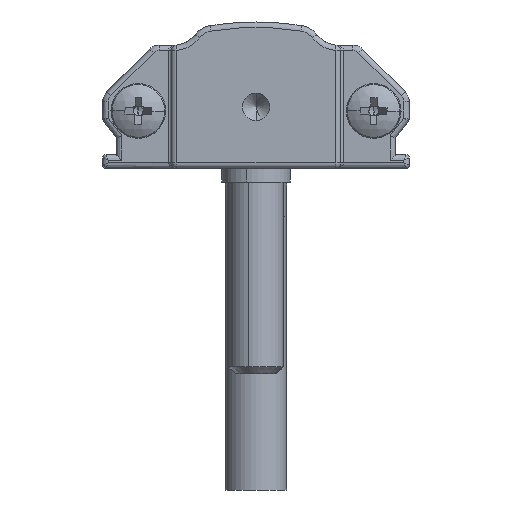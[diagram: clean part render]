
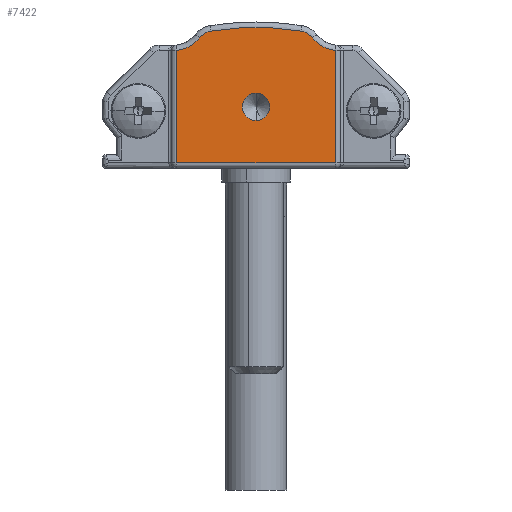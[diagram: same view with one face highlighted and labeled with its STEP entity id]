
A CAD part, front view. The second image highlights one B-rep face of the part: STEP entity #7422.
In plain terms, the highlighted planar face has unit normal (0, -1, 0).
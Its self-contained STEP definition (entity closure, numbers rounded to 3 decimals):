
#266 = EDGE_CURVE ( 'NONE', #24204, #14003, #29381, .T. ) ;
#2321 = CARTESIAN_POINT ( 'NONE',  ( 17., -15., 8.612 ) ) ;
#2668 = DIRECTION ( 'NONE',  ( 0., 0., -1. ) ) ;
#2794 = ORIENTED_EDGE ( 'NONE', *, *, #32054, .F. ) ;
#3646 = DIRECTION ( 'NONE',  ( 0., 0., -1. ) ) ;
#3812 = CARTESIAN_POINT ( 'NONE',  ( 8.1, -15., 8.75 ) ) ;
#3814 = ORIENTED_EDGE ( 'NONE', *, *, #266, .T. ) ;
#3871 = FACE_BOUND ( 'NONE', #22832, .T. ) ;
#4716 = DIRECTION ( 'NONE',  ( 0., -1., 0. ) ) ;
#4768 = CIRCLE ( 'NONE', #12171, 1.3 ) ;
#4970 = EDGE_CURVE ( 'NONE', #14003, #6780, #13871, .T. ) ;
#5076 = CARTESIAN_POINT ( 'NONE',  ( 5.4, -15., 0.4 ) ) ;
#5229 = CIRCLE ( 'NONE', #23631, 20.676 ) ;
#6353 = FACE_OUTER_BOUND ( 'NONE', #16106, .T. ) ;
#6614 = VERTEX_POINT ( 'NONE', #22272 ) ;
#6780 = VERTEX_POINT ( 'NONE', #29675 ) ;
#7024 = AXIS2_PLACEMENT_3D ( 'NONE', #32021, #9720, #16987 ) ;
#7422 = ADVANCED_FACE ( 'NONE', ( #6353, #3871 ), #26621, .T. ) ;
#7526 = CARTESIAN_POINT ( 'NONE',  ( 14.3, -15., 8.75 ) ) ;
#7828 = CARTESIAN_POINT ( 'NONE',  ( 15.332, -15., 9.541 ) ) ;
#8574 = CARTESIAN_POINT ( 'NONE',  ( 11.2, -15., 4.5 ) ) ;
#8598 = DIRECTION ( 'NONE',  ( 0., -1., 0. ) ) ;
#8658 = CARTESIAN_POINT ( 'NONE',  ( 22.15, -15., 3.606 ) ) ;
#8888 = VERTEX_POINT ( 'NONE', #15983 ) ;
#9268 = ORIENTED_EDGE ( 'NONE', *, *, #15489, .T. ) ;
#9720 = DIRECTION ( 'NONE',  ( 0., 1., 0. ) ) ;
#10282 = CIRCLE ( 'NONE', #13986, 1.3 ) ;
#10620 = CARTESIAN_POINT ( 'NONE',  ( 11.2, -15., -10.376 ) ) ;
#10702 = VERTEX_POINT ( 'NONE', #22607 ) ;
#10705 = EDGE_CURVE ( 'NONE', #6780, #30689, #25092, .T. ) ;
#11440 = DIRECTION ( 'NONE',  ( 0., 0., -1. ) ) ;
#11819 = VERTEX_POINT ( 'NONE', #31756 ) ;
#12098 = EDGE_CURVE ( 'NONE', #10702, #24204, #21231, .T. ) ;
#12171 = AXIS2_PLACEMENT_3D ( 'NONE', #7526, #4716, #30170 ) ;
#12427 = DIRECTION ( 'NONE',  ( 0., 0., 1. ) ) ;
#13658 = DIRECTION ( 'NONE',  ( 0., 0., -1. ) ) ;
#13871 = LINE ( 'NONE', #31858, #17646 ) ;
#13986 = AXIS2_PLACEMENT_3D ( 'NONE', #3812, #8598, #3646 ) ;
#14003 = VERTEX_POINT ( 'NONE', #5076 ) ;
#14253 = CARTESIAN_POINT ( 'NONE',  ( 11.2, -15., 4.5 ) ) ;
#14327 = VERTEX_POINT ( 'NONE', #7828 ) ;
#14521 = CIRCLE ( 'NONE', #26037, 1. ) ;
#14809 = ORIENTED_EDGE ( 'NONE', *, *, #17983, .T. ) ;
#15052 = ORIENTED_EDGE ( 'NONE', *, *, #15440, .T. ) ;
#15440 = EDGE_CURVE ( 'NONE', #23894, #10702, #10282, .T. ) ;
#15489 = EDGE_CURVE ( 'NONE', #30689, #14327, #17664, .T. ) ;
#15701 = DIRECTION ( 'NONE',  ( 0., -1., 0. ) ) ;
#15850 = VECTOR ( 'NONE', #12427, 1000. ) ;
#15983 = CARTESIAN_POINT ( 'NONE',  ( 11.2, -15., 5.5 ) ) ;
#16106 = EDGE_LOOP ( 'NONE', ( #30932, #9268, #19811, #14809, #15052, #20766, #3814, #26886 ) ) ;
#16649 = DIRECTION ( 'NONE',  ( 1., 0., 0. ) ) ;
#16687 = CARTESIAN_POINT ( 'NONE',  ( 17.238, -15., 11. ) ) ;
#16987 = DIRECTION ( 'NONE',  ( 0., 0., -1. ) ) ;
#17150 = DIRECTION ( 'NONE',  ( 0., 0., -1. ) ) ;
#17646 = VECTOR ( 'NONE', #16649, 1000. ) ;
#17664 = CIRCLE ( 'NONE', #22901, 2.4 ) ;
#17983 = EDGE_CURVE ( 'NONE', #11819, #23894, #5229, .T. ) ;
#18809 = AXIS2_PLACEMENT_3D ( 'NONE', #8658, #26441, #13658 ) ;
#19042 = EDGE_CURVE ( 'NONE', #6614, #8888, #14521, .T. ) ;
#19527 = VECTOR ( 'NONE', #17150, 1000. ) ;
#19811 = ORIENTED_EDGE ( 'NONE', *, *, #25498, .T. ) ;
#20766 = ORIENTED_EDGE ( 'NONE', *, *, #12098, .T. ) ;
#21231 = CIRCLE ( 'NONE', #7024, 2.4 ) ;
#22272 = CARTESIAN_POINT ( 'NONE',  ( 11.2, -15., 3.5 ) ) ;
#22607 = CARTESIAN_POINT ( 'NONE',  ( 7.068, -15., 9.541 ) ) ;
#22832 = EDGE_LOOP ( 'NONE', ( #31430, #2794 ) ) ;
#22901 = AXIS2_PLACEMENT_3D ( 'NONE', #16687, #26555, #31405 ) ;
#23028 = CARTESIAN_POINT ( 'NONE',  ( 17., -15., 8.612 ) ) ;
#23420 = DIRECTION ( 'NONE',  ( 0., 0., -1. ) ) ;
#23631 = AXIS2_PLACEMENT_3D ( 'NONE', #10620, #15701, #2668 ) ;
#23894 = VERTEX_POINT ( 'NONE', #29719 ) ;
#24204 = VERTEX_POINT ( 'NONE', #25129 ) ;
#24257 = DIRECTION ( 'NONE',  ( 0., -1., 0. ) ) ;
#24920 = AXIS2_PLACEMENT_3D ( 'NONE', #8574, #28571, #23420 ) ;
#25092 = LINE ( 'NONE', #2321, #15850 ) ;
#25129 = CARTESIAN_POINT ( 'NONE',  ( 5.4, -15., 8.612 ) ) ;
#25498 = EDGE_CURVE ( 'NONE', #14327, #11819, #4768, .T. ) ;
#26037 = AXIS2_PLACEMENT_3D ( 'NONE', #14253, #24257, #11440 ) ;
#26441 = DIRECTION ( 'NONE',  ( 0., -1., 0. ) ) ;
#26555 = DIRECTION ( 'NONE',  ( 0., 1., 0. ) ) ;
#26621 = PLANE ( 'NONE',  #18809 ) ;
#26886 = ORIENTED_EDGE ( 'NONE', *, *, #4970, .T. ) ;
#28571 = DIRECTION ( 'NONE',  ( 0., -1., 0. ) ) ;
#29381 = LINE ( 'NONE', #31695, #19527 ) ;
#29675 = CARTESIAN_POINT ( 'NONE',  ( 17., -15., 0.4 ) ) ;
#29694 = CIRCLE ( 'NONE', #24920, 1. ) ;
#29719 = CARTESIAN_POINT ( 'NONE',  ( 7.892, -15., 10.034 ) ) ;
#30170 = DIRECTION ( 'NONE',  ( 0., 0., -1. ) ) ;
#30689 = VERTEX_POINT ( 'NONE', #23028 ) ;
#30932 = ORIENTED_EDGE ( 'NONE', *, *, #10705, .T. ) ;
#31405 = DIRECTION ( 'NONE',  ( 0., 0., -1. ) ) ;
#31430 = ORIENTED_EDGE ( 'NONE', *, *, #19042, .F. ) ;
#31695 = CARTESIAN_POINT ( 'NONE',  ( 5.4, -15., 0.4 ) ) ;
#31756 = CARTESIAN_POINT ( 'NONE',  ( 14.508, -15., 10.034 ) ) ;
#31858 = CARTESIAN_POINT ( 'NONE',  ( 17., -15., 0.4 ) ) ;
#32021 = CARTESIAN_POINT ( 'NONE',  ( 5.162, -15., 11. ) ) ;
#32054 = EDGE_CURVE ( 'NONE', #8888, #6614, #29694, .T. ) ;
